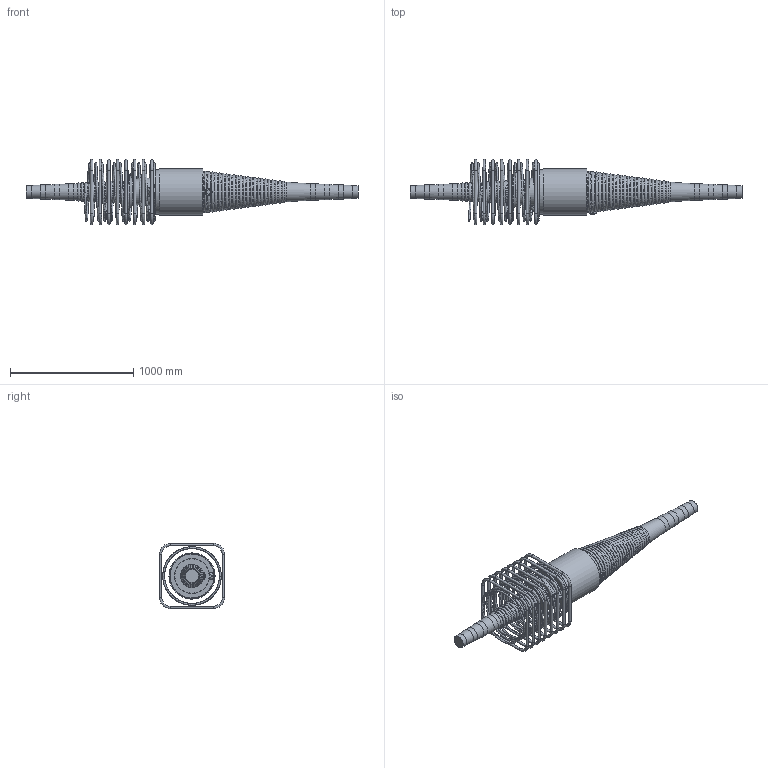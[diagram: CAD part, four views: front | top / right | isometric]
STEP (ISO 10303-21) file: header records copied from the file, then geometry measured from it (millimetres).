
FILE_DESCRIPTION(/* description */ (''),/* implementation_level */ '2;1');
FILE_NAME(/* name */ 'Z:\04 Publications\05 Give-out\BBR\6_3D_Models\BBR VT CONA CMI\BBR VT CONA CMI BT\03106\BBR VT CONA CMI BT 3106_Coupler H Assembly_CS-34,28.stp',/* time_stamp */ '2017-05-05T10:43:20+02:00',/* author */ ('IP'),/* organization */ (''),/* preprocessor_version */ 'ST-DEVELOPER v16.1',/* originating_system */ 'Autodesk Inventor 2016',/* authorisation */ '');
FILE_SCHEMA (('AUTOMOTIVE_DESIGN { 1 0 10303 214 3 1 1 }'));
Products named in the file (1): BBR VT CONA CMI BT 3106_Coupler H Assembly_CS-34,28
Bounding box: 2698.22 x 530 x 530 mm (x, y, z)
Volume: 115339282.2 mm3; surface area: 3764000.8 mm2
Topology: 10 solids, 10 shells, 1029 faces, 2593 edges, 1631 vertices
Faces by surface type: bspline 373, plane 309, torus 174, cylinder 122, cone 41, sphere 10
Full cylindrical faces by diameter (mm): 20 x32, 34 x1, 34.089 x1, 57 x1, 57.089 x1, 104 x2, 114 x2, 124 x2, 134 x2, 208 x1, 279 x1, 283 x1, 360 x1, 375 x1
Entity records: 42079 total; most frequent: CARTESIAN_POINT 20123, ORIENTED_EDGE 4668, DIRECTION 3551, EDGE_CURVE 2334, VERTEX_POINT 1621, EDGE_LOOP 1343, AXIS2_PLACEMENT_3D 1313, FACE_OUTER_BOUND 1029
